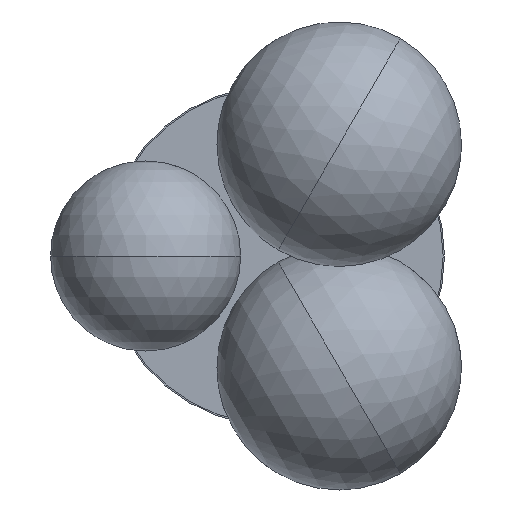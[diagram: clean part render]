
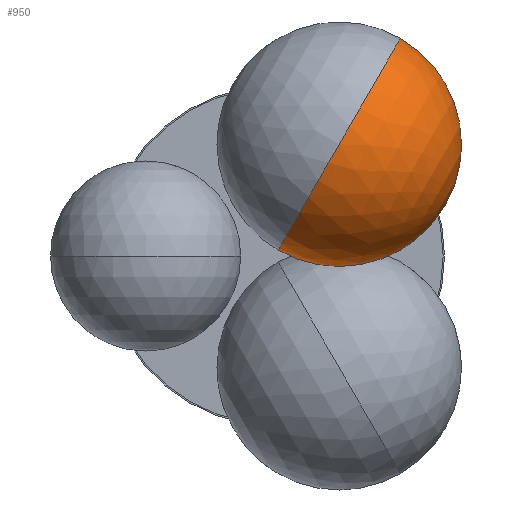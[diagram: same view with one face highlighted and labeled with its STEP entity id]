
A CAD part, front view. The second image highlights one B-rep face of the part: STEP entity #950.
In plain terms, the highlighted spherical face has radius 90 mm.
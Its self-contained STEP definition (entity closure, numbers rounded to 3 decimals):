
#54 = EDGE_LOOP ( 'NONE', ( #1866, #1667, #608, #1307 ) ) ;
#125 = CARTESIAN_POINT ( 'NONE',  ( 142.5, -392.711, 82.272 ) ) ;
#155 = EDGE_CURVE ( 'NONE', #465, #1497, #1593, .T. ) ;
#184 = CIRCLE ( 'NONE', #1596, 90. ) ;
#186 = DIRECTION ( 'NONE',  ( -0.866, 0., 0.5 ) ) ;
#229 = CARTESIAN_POINT ( 'NONE',  ( 142.5, -302.711, 82.272 ) ) ;
#326 = AXIS2_PLACEMENT_3D ( 'NONE', #1171, #1622, #1140 ) ;
#363 = FACE_OUTER_BOUND ( 'NONE', #54, .T. ) ;
#465 = VERTEX_POINT ( 'NONE', #700 ) ;
#562 = VERTEX_POINT ( 'NONE', #881 ) ;
#575 = CARTESIAN_POINT ( 'NONE',  ( 97.5, -302.711, 4.33 ) ) ;
#608 = ORIENTED_EDGE ( 'NONE', *, *, #155, .F. ) ;
#647 = DIRECTION ( 'NONE',  ( 0., 1., 0. ) ) ;
#676 = EDGE_CURVE ( 'NONE', #562, #465, #1123, .T. ) ;
#684 = DIRECTION ( 'NONE',  ( 0.5, 0., 0.866 ) ) ;
#698 = AXIS2_PLACEMENT_3D ( 'NONE', #911, #1976, #1946 ) ;
#700 = CARTESIAN_POINT ( 'NONE',  ( 220.442, -302.711, 37.272 ) ) ;
#733 = AXIS2_PLACEMENT_3D ( 'NONE', #229, #647, #958 ) ;
#798 = SPHERICAL_SURFACE ( 'NONE', #898, 90. ) ;
#829 = CARTESIAN_POINT ( 'NONE',  ( 142.5, -302.711, 82.272 ) ) ;
#881 = CARTESIAN_POINT ( 'NONE',  ( 187.5, -302.711, 160.215 ) ) ;
#898 = AXIS2_PLACEMENT_3D ( 'NONE', #1893, #1410, #1734 ) ;
#911 = CARTESIAN_POINT ( 'NONE',  ( 142.5, -302.711, 82.272 ) ) ;
#918 = EDGE_CURVE ( 'NONE', #1048, #562, #184, .T. ) ;
#950 = ADVANCED_FACE ( 'NONE', ( #363 ), #798, .T. ) ;
#958 = DIRECTION ( 'NONE',  ( -0.866, 0., 0.5 ) ) ;
#1048 = VERTEX_POINT ( 'NONE', #125 ) ;
#1123 = CIRCLE ( 'NONE', #733, 90. ) ;
#1140 = DIRECTION ( 'NONE',  ( -0.5, 0., -0.866 ) ) ;
#1171 = CARTESIAN_POINT ( 'NONE',  ( 142.5, -302.711, 82.272 ) ) ;
#1307 = ORIENTED_EDGE ( 'NONE', *, *, #676, .F. ) ;
#1410 = DIRECTION ( 'NONE',  ( -0.866, 0., 0.5 ) ) ;
#1437 = EDGE_CURVE ( 'NONE', #1048, #1497, #1793, .T. ) ;
#1497 = VERTEX_POINT ( 'NONE', #575 ) ;
#1593 = CIRCLE ( 'NONE', #698, 90. ) ;
#1596 = AXIS2_PLACEMENT_3D ( 'NONE', #829, #186, #684 ) ;
#1622 = DIRECTION ( 'NONE',  ( 0.866, 0., -0.5 ) ) ;
#1667 = ORIENTED_EDGE ( 'NONE', *, *, #1437, .T. ) ;
#1734 = DIRECTION ( 'NONE',  ( -0.5, 0., -0.866 ) ) ;
#1793 = CIRCLE ( 'NONE', #326, 90. ) ;
#1866 = ORIENTED_EDGE ( 'NONE', *, *, #918, .F. ) ;
#1893 = CARTESIAN_POINT ( 'NONE',  ( 142.5, -302.711, 82.272 ) ) ;
#1946 = DIRECTION ( 'NONE',  ( -0.866, 0., 0.5 ) ) ;
#1976 = DIRECTION ( 'NONE',  ( 0., 1., 0. ) ) ;
